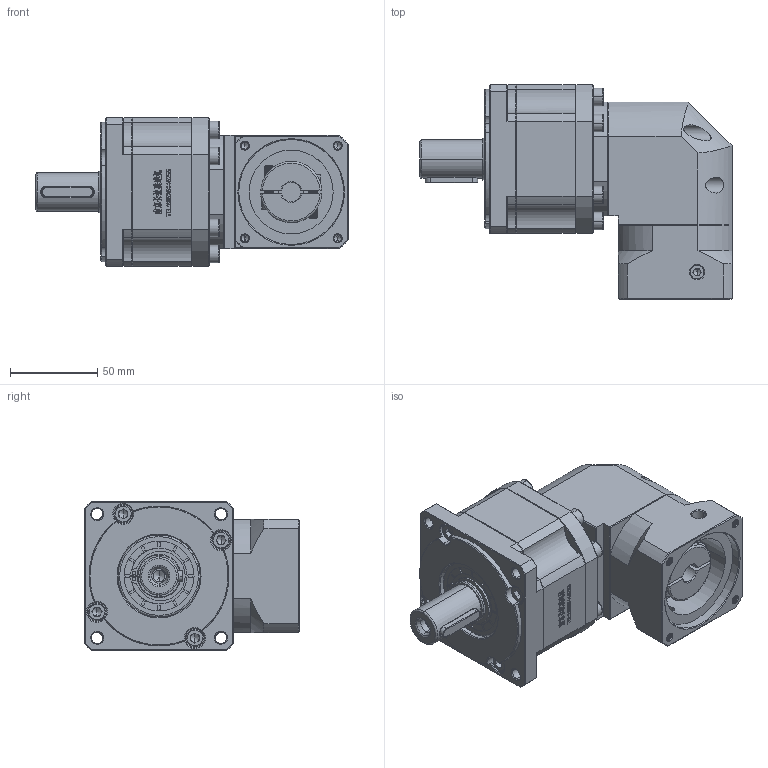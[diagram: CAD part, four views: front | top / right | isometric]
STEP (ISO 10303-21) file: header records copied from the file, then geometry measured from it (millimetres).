
FILE_DESCRIPTION (( 'STEP AP214' ), '1' );
FILE_NAME ('ZBR90-D22-L2-11-60-75-M5.step', '2022-05-07T15:19:35', ( '' ), ( 'Microsoft' ), 'SwSTEP 2.0', 'SolidWorks 2016', '' );
FILE_SCHEMA (( 'AUTOMOTIVE_DESIGN' ));
Length unit declared in the file: millimetre
Products named in the file (1): ZBR90-D22-L2-11-60-75-M5
Bounding box: 178.5 x 122.7 x 85 mm (x, y, z)
Volume: 817226.3 mm3; surface area: 101070.5 mm2
Topology: 5 solids, 5 shells, 3039 faces, 8134 edges, 5239 vertices
Faces by surface type: plane 1598, bspline 620, cylinder 445, cone 368, torus 8
Entity records: 163701 total; most frequent: CARTESIAN_POINT 59064, ORIENTED_EDGE 16176, DIRECTION 12423, EDGE_CURVE 8088, VECTOR 5349, LINE 5349, VERTEX_POINT 5239, AXIS2_PLACEMENT_3D 3537
